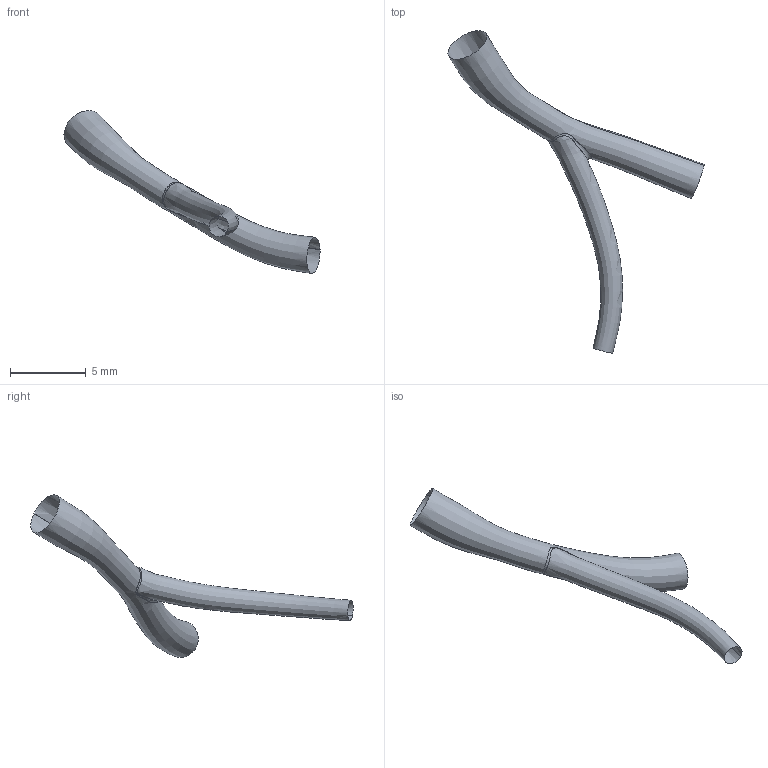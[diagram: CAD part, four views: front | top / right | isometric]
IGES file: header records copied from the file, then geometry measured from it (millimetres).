
Global section: file name: C:\Documents and Settings\Administrator\Desktop\FDA-Pig\Domestic LCA\Pig_000137\diag.es.igs; native system: Rhinoceros ( May 19 2006 ); preprocessor: Trout Lake IGES 012 May 19 2006; date: 111205.184121; units: centimetre
Bounding box: 16.85 x 21.21 x 10.7 mm (x, y, z)
Surface area: 208.6 mm2 (no closed solid volume)
Topology: 0 solids, 0 shells, 3 faces, 55 edges, 52 vertices
Faces by surface type: bspline 3
